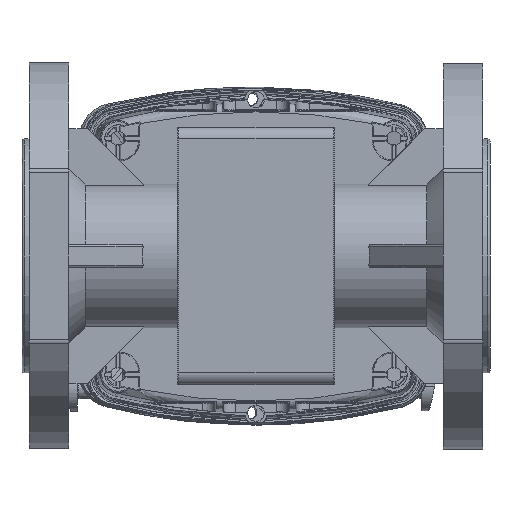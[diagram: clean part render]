
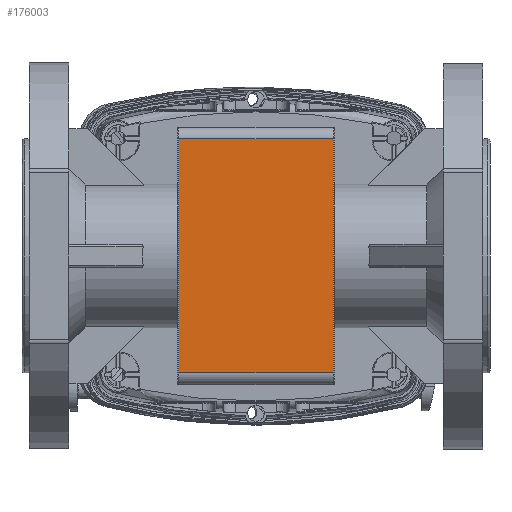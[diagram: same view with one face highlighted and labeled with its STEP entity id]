
A CAD part, front view. The second image highlights one B-rep face of the part: STEP entity #176003.
In plain terms, the highlighted planar face has unit normal (0, -1, 0).
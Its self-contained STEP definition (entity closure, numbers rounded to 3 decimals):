
#6596 = AXIS2_PLACEMENT_3D ( 'NONE', #83023, #104067, #251093 ) ;
#8829 = VERTEX_POINT ( 'NONE', #130422 ) ;
#15018 = LINE ( 'NONE', #56458, #231899 ) ;
#29110 = EDGE_CURVE ( 'NONE', #29738, #8829, #104608, .T. ) ;
#29738 = VERTEX_POINT ( 'NONE', #253548 ) ;
#56458 = CARTESIAN_POINT ( 'NONE',  ( -33., -45., 50. ) ) ;
#83023 = CARTESIAN_POINT ( 'NONE',  ( 33.5, -45., 55. ) ) ;
#84260 = EDGE_CURVE ( 'NONE', #246017, #29738, #15018, .T. ) ;
#85540 = CARTESIAN_POINT ( 'NONE',  ( 33., -45., -50. ) ) ;
#93422 = EDGE_CURVE ( 'NONE', #217271, #246017, #204549, .T. ) ;
#104067 = DIRECTION ( 'NONE',  ( 0., -1., 0. ) ) ;
#104608 = LINE ( 'NONE', #105148, #216442 ) ;
#105148 = CARTESIAN_POINT ( 'NONE',  ( -33., -45., 55. ) ) ;
#130422 = CARTESIAN_POINT ( 'NONE',  ( -33., -45., -50. ) ) ;
#142125 = ORIENTED_EDGE ( 'NONE', *, *, #236496, .T. ) ;
#142260 = CARTESIAN_POINT ( 'NONE',  ( 33., -45., 55. ) ) ;
#148638 = VECTOR ( 'NONE', #247939, 1000. ) ;
#162936 = FACE_OUTER_BOUND ( 'NONE', #255558, .T. ) ;
#165528 = VECTOR ( 'NONE', #234537, 1000. ) ;
#166634 = ORIENTED_EDGE ( 'NONE', *, *, #93422, .T. ) ;
#166657 = PLANE ( 'NONE',  #6596 ) ;
#172148 = LINE ( 'NONE', #192357, #165528 ) ;
#176003 = ADVANCED_FACE ( 'NONE', ( #162936 ), #166657, .T. ) ;
#177872 = ORIENTED_EDGE ( 'NONE', *, *, #29110, .T. ) ;
#192357 = CARTESIAN_POINT ( 'NONE',  ( 33., -45., -50. ) ) ;
#203424 = DIRECTION ( 'NONE',  ( -1., 0., 0. ) ) ;
#204549 = LINE ( 'NONE', #142260, #148638 ) ;
#216442 = VECTOR ( 'NONE', #253979, 1000. ) ;
#217271 = VERTEX_POINT ( 'NONE', #85540 ) ;
#231899 = VECTOR ( 'NONE', #203424, 1000. ) ;
#234537 = DIRECTION ( 'NONE',  ( 1., 0., 0. ) ) ;
#236496 = EDGE_CURVE ( 'NONE', #8829, #217271, #172148, .T. ) ;
#246017 = VERTEX_POINT ( 'NONE', #271833 ) ;
#247939 = DIRECTION ( 'NONE',  ( 0., 0., 1. ) ) ;
#251093 = DIRECTION ( 'NONE',  ( 0., 0., -1. ) ) ;
#253548 = CARTESIAN_POINT ( 'NONE',  ( -33., -45., 50. ) ) ;
#253979 = DIRECTION ( 'NONE',  ( 0., 0., -1. ) ) ;
#255558 = EDGE_LOOP ( 'NONE', ( #166634, #255622, #177872, #142125 ) ) ;
#255622 = ORIENTED_EDGE ( 'NONE', *, *, #84260, .T. ) ;
#271833 = CARTESIAN_POINT ( 'NONE',  ( 33., -45., 50. ) ) ;
